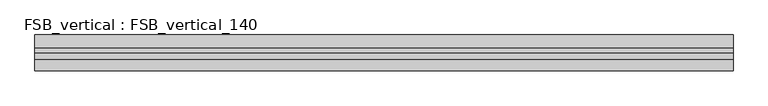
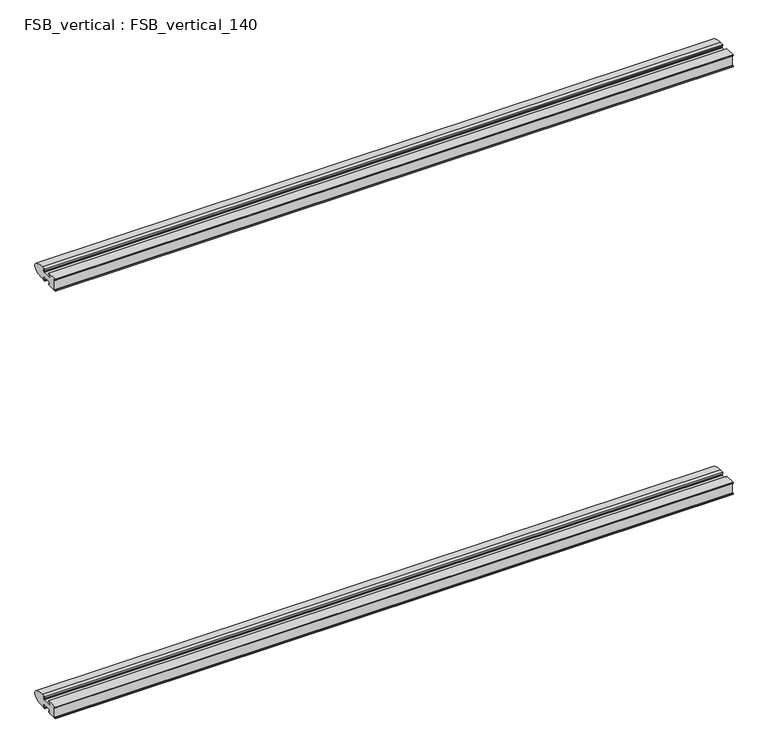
"""IFC4 building model written with IfcOpenShell, lengths in millimetres: proxy geometry, FSB_vertical : FSB_vertical_140."""

import ifcopenshell
import ifcopenshell.guid

model = None  # the IFC model being written
_history = None  # IfcOwnerHistory: only IFC2X3 demands one
_inside = {}  # id of a spatial element -> (the spatial element, [elements in it])
_under = {}  # id of a project, library or spatial element -> (it, [spatial elements below it])
_declared = {}  # id of a project -> (the project, [libraries it declares])
_typed = {}  # id of a type object -> (the type object, [elements of that type])
_made_of = {}  # id of a material, layer set ... -> (it, [elements and type objects made of it])


def new_model(schema):
    """Start an empty IFC model of exactly this schema.

    Asked for "IFC4X3", IfcOpenShell would pick the latest addendum, in which some entities
    have other attributes; the version numbers below select the first issue.
    IFC2X3 requires an IfcOwnerHistory on every rooted entity: one is made here for all.
    """
    global model, _history
    if schema == "IFC4X3":
        model = ifcopenshell.file(schema_version=(4, 3, 0, 0))
    else:
        model = ifcopenshell.file(schema=schema)
    _inside.clear()
    _under.clear()
    _declared.clear()
    _typed.clear()
    _made_of.clear()
    _history = None
    if model.schema == "IFC2X3":
        org = make("IfcOrganization", Name="unknown")
        user = make(
            "IfcPersonAndOrganization",
            ThePerson=make("IfcPerson", FamilyName="unknown"),
            TheOrganization=org,
        )
        app = make(
            "IfcApplication",
            ApplicationDeveloper=org,
            Version="unknown",
            ApplicationFullName="unknown",
            ApplicationIdentifier="unknown",
        )
        _history = make(
            "IfcOwnerHistory",
            OwningUser=user,
            OwningApplication=app,
            ChangeAction="ADDED",
            CreationDate=0,
        )
    return model


def make(cls, **values):
    """One entity of the class cls with the attributes given. An attribute that is None is left unset."""
    return model.create_entity(
        cls, **{name: value for name, value in values.items() if value is not None}
    )


def rooted(cls, **values):
    """An entity with a GlobalId (a new one), such as an element, a storey or a relation."""
    return make(cls, GlobalId=ifcopenshell.guid.new(), OwnerHistory=_history, **values)


def si_unit(unit_type, name, prefix=None):
    """IfcSIUnit, for example si_unit("LENGTHUNIT", "METRE", prefix="MILLI")."""
    return make("IfcSIUnit", UnitType=unit_type, Prefix=prefix, Name=name)


def assignment(units):
    """IfcUnitAssignment: the units of a project."""
    return None if units is None else make("IfcUnitAssignment", Units=units)


def point(xyz):
    """IfcCartesianPoint."""
    return None if xyz is None else make("IfcCartesianPoint", Coordinates=xyz)


def direction(xyz):
    """IfcDirection."""
    return None if xyz is None else make("IfcDirection", DirectionRatios=xyz)


def frame(location, z_axis=None, x_axis=None):
    """IfcAxis2Placement3D, a coordinate frame: its origin and axes. An axis left out is left unset."""
    return make(
        "IfcAxis2Placement3D",
        Location=point(location),
        Axis=direction(z_axis),
        RefDirection=direction(x_axis),
    )


def origin():
    """The frame at (0, 0, 0) with its axes left unset."""
    return frame((0.0, 0.0, 0.0))


def place(relative_to, where):
    """IfcLocalPlacement: puts the frame where relative to a parent placement (None: the world)."""
    return make(
        "IfcLocalPlacement", PlacementRelTo=relative_to, RelativePlacement=where
    )


def context(
    kind, dimensions, precision=None, world=None, true_north=None, identifier=None
):
    """IfcGeometricRepresentationContext, for example the 3D "Model" context."""
    return make(
        "IfcGeometricRepresentationContext",
        ContextIdentifier=identifier,
        ContextType=kind,
        CoordinateSpaceDimension=dimensions,
        Precision=precision,
        WorldCoordinateSystem=world,
        TrueNorth=true_north,
    )


def project(units=None, contexts=None):
    """IfcProject with its units and contexts."""
    return rooted(
        "IfcProject",
        Name="project",
        RepresentationContexts=contexts,
        UnitsInContext=assignment(units),
    )


def spatial(cls, under=None, at=None, **own):
    """A site, building, storey or space (cls), placed at a placement, below another one or the project."""
    s = rooted(cls, ObjectPlacement=at, **own)
    if under is not None:
        _under.setdefault(under.id(), (under, []))[1].append(s)
    return s


def circle_curve(where, radius):
    """IfcCircle in the frame where."""
    return make("IfcCircle", Position=where, Radius=radius)


def ellipse_curve(where, semi_axis1, semi_axis2):
    """IfcEllipse in the frame where."""
    return make(
        "IfcEllipse", Position=where, SemiAxis1=semi_axis1, SemiAxis2=semi_axis2
    )


def trimmed(basis, trim1, trim2, sense, master):
    """IfcTrimmedCurve: the piece of a basis curve between two trims."""
    return make(
        "IfcTrimmedCurve",
        BasisCurve=basis,
        Trim1=trim1,
        Trim2=trim2,
        SenseAgreement=sense,
        MasterRepresentation=master,
    )


def shape(context_of_items, identifier, shape_type, items):
    """IfcShapeRepresentation: the items that make up one representation, for example the "Body"."""
    return make(
        "IfcShapeRepresentation",
        ContextOfItems=context_of_items,
        RepresentationIdentifier=identifier,
        RepresentationType=shape_type,
        Items=items,
    )


def source(mapping_origin, context_of_items, identifier, shape_type, items):
    """IfcRepresentationMap: a shape defined once, which mapped items show again and again."""
    return make(
        "IfcRepresentationMap",
        MappingOrigin=mapping_origin,
        MappedRepresentation=shape(context_of_items, identifier, shape_type, items),
    )


def transform(
    local_origin,
    x_axis=None,
    y_axis=None,
    z_axis=None,
    scale=None,
    scale2=None,
    scale3=None,
    uniform=True,
):
    """IfcCartesianTransformationOperator3D, or its non-uniform kind. x_axis, y_axis, z_axis: its Axis1, 2, 3."""
    if uniform:
        return make(
            "IfcCartesianTransformationOperator3D",
            Axis1=direction(x_axis),
            Axis2=direction(y_axis),
            LocalOrigin=point(local_origin),
            Scale=scale,
            Axis3=direction(z_axis),
        )
    return make(
        "IfcCartesianTransformationOperator3DnonUniform",
        Axis1=direction(x_axis),
        Axis2=direction(y_axis),
        LocalOrigin=point(local_origin),
        Scale=scale,
        Axis3=direction(z_axis),
        Scale2=scale2,
        Scale3=scale3,
    )


def mapped(mapping_source, mapping_target):
    """IfcMappedItem: shows the shape of a source again, moved by a transform."""
    return make(
        "IfcMappedItem", MappingSource=mapping_source, MappingTarget=mapping_target
    )


def made_of(thing, what):
    """Note that an element or type object is made of a material, layer set ...; save() writes the relation."""
    if what is not None:
        _made_of.setdefault(what.id(), (what, []))[1].append(thing)
    return thing


def element(
    cls,
    number,
    at=None,
    inside=None,
    cuts=None,
    type_object=None,
    material=None,
    context=None,
    identifier="Body",
    shape_type=None,
    held_by="IfcProductDefinitionShape",
    body=None,
    shapes=None,
    **own,
):
    """One element of the class cls, such as IfcWall. Its Tag is "e" and its number.

    at: its placement. inside: the storey or other place that contains it. cuts: it is an
    opening in that element (IfcRelVoidsElement). A single representation is given by context,
    identifier, shape_type and body (its items); several are given by shapes. held_by: the class
    of the entity that holds the representations. save() writes the other relations.
    """
    e = rooted(cls, Tag="e%d" % number, ObjectPlacement=at, **own)
    if body is not None:
        shapes = [shape(context, identifier, shape_type, body)]
    if shapes is not None:
        e.Representation = make(held_by, Representations=shapes)
    if inside is not None:
        _inside.setdefault(inside.id(), (inside, []))[1].append(e)
    if cuts is not None:
        rooted(
            "IfcRelVoidsElement", RelatingBuildingElement=cuts, RelatedOpeningElement=e
        )
    if type_object is not None:
        _typed.setdefault(type_object.id(), (type_object, []))[1].append(e)
    return made_of(e, material)


def aggregate(whole, parts):
    """IfcRelAggregates: a whole, such as a stair, and the parts it consists of."""
    return rooted("IfcRelAggregates", RelatingObject=whole, RelatedObjects=parts)


def save(model, path):
    """Write the relations noted so far, then the file.

    IfcRelAggregates (storeys below a building ...), IfcRelContainedInSpatialStructure (elements
    in a storey), IfcRelDefinesByType, IfcRelAssociatesMaterial and IfcRelDeclares: one each for
    every whole, place, type object, material and project.
    """
    for whole, parts in _under.values():
        aggregate(whole, parts)
    for where, things in _inside.values():
        rooted(
            "IfcRelContainedInSpatialStructure",
            RelatedElements=things,
            RelatingStructure=where,
        )
    for kind, things in _typed.values():
        rooted("IfcRelDefinesByType", RelatedObjects=things, RelatingType=kind)
    for what, things in _made_of.values():
        rooted("IfcRelAssociatesMaterial", RelatedObjects=things, RelatingMaterial=what)
    for by, libraries in _declared.values():
        rooted("IfcRelDeclares", RelatingContext=by, RelatedDefinitions=libraries)
    model.write(path)


def plane_surface(at):
    """IfcPlane: the flat surface through the origin of the frame at, square to its z axis."""
    return make("IfcPlane", Position=at)


def cylinder_surface(at, radius):
    """IfcCylindricalSurface: all points at the distance radius from the z axis of the frame at."""
    return make("IfcCylindricalSurface", Position=at, Radius=radius)


def extruded_surface(curve, direction_of_extrusion, depth):
    """IfcSurfaceOfLinearExtrusion: the curve pushed along a direction by depth."""
    return make(
        "IfcSurfaceOfLinearExtrusion",
        SweptCurve=make("IfcArbitraryOpenProfileDef", ProfileType="CURVE", Curve=curve),
        ExtrudedDirection=direction(direction_of_extrusion),
        Depth=depth,
    )


def advanced_brep(points, edges, surfaces, faces):
    """IfcAdvancedBrep: a solid bounded by faces that lie on surfaces and meet in shared edges.

    An edge is (start, end): straight between two places in points (the first is 0);
    or (start, end, curve); or (start, end, curve, False) where it runs against its curve.
    A face is (place in surfaces, loops), or (place, loops, False) where it looks against
    its surface's normal. A loop lists edges by number (the first is 1), with a minus sign
    where the edge is run from its end to its start. The first loop is the outer one.
    """
    corners = [point(p) for p in points]
    vertices = [make("IfcVertexPoint", VertexGeometry=c) for c in corners]
    made = []
    for start, end, *more in edges:
        made.append(
            make(
                "IfcEdgeCurve",
                EdgeStart=vertices[start],
                EdgeEnd=vertices[end],
                EdgeGeometry=more[0] if more else make("IfcPolyline", Points=[corners[start], corners[end]]),
                SameSense=more[1] if len(more) > 1 else True,
            )
        )
    hull = []
    for where, loops, *sense in faces:
        bounds = []
        for j, loop in enumerate(loops):
            ring = [make("IfcOrientedEdge", EdgeElement=made[abs(k) - 1], Orientation=k > 0) for k in loop]
            bounds.append(
                make(
                    "IfcFaceOuterBound" if j == 0 else "IfcFaceBound",
                    Bound=make("IfcEdgeLoop", EdgeList=ring),
                    Orientation=True,
                )
            )
        hull.append(make("IfcAdvancedFace", Bounds=bounds, FaceSurface=surfaces[where], SameSense=sense[0] if sense else True))
    return make("IfcAdvancedBrep", Outer=make("IfcClosedShell", CfsFaces=hull))


def fsb_vertical_fsb_vertical_140_c8c1adf7(model_context):
    return source(origin(), model_context, "Body", "AdvancedBrep", [
        advanced_brep(
        [(-1500.0, 35.515, 27.4994269), (-1500.0, 35.515, -27.5000975), (-1500.0, 14.55, -27.5000975), (-1500.0, 14.55, -22.4), (-1500.0, 16.55, -22.4), (-1500.0, 16.55, -24.5000975), (-1500.0, 17.55, -25.5000975), (-1500.0, 22.175, -25.5000975), (-1500.0, 22.175, -14.05), (-1500.0, 18.5225, -14.05), (-1500.0, 18.5225, -11.0), (-1500.0, -18.5225, -11.0), (-1500.0, -18.5225, -14.05), (-1500.0, -22.175, -14.05), (-1500.0, -22.175, -25.3000975), (-1500.0, -17.55, -25.3000975), (-1500.0, -16.55, -24.3000975), (-1500.0, -16.55, -22.4), (-1500.0, -14.55, -22.4), (-1500.0, -14.55, -27.5000975), (-1500.0, -63.0727525, -27.5000975), (-1500.0, -63.0727525, -24.0000975), (-1500.0, -62.0727525, -23.0000975), (-1500.0, -60.5727525, -23.0000975), (-1500.0, -60.5727525, -25.0000975), (-1500.0, -57.5727525, -25.0000975), (-1500.0, -57.5727525, 25.0000975), (-1500.0, -60.5727525, 25.0000975), (-1500.0, -60.5727525, 23.0000975), (-1500.0, -62.0727525, 23.0000975), (-1500.0, -63.0727525, 24.0000975), (-1500.0, -63.0727525, 27.5000975), (-1500.0, -14.55, 27.5000975), (-1500.0, -14.55, 22.4), (-1500.0, -16.55, 22.4), (-1500.0, -16.55, 24.3000975), (-1500.0, -17.55, 25.3000975), (-1500.0, -22.175, 25.3000975), (-1500.0, -22.175, 14.05), (-1500.0, -18.5225, 14.05), (-1500.0, -18.5225, 11.0), (-1500.0, 18.5225, 11.0), (-1500.0, 18.5225, 14.05), (-1500.0, 22.175, 14.05), (-1500.0, 22.175, 25.5000975), (-1500.0, 17.55, 25.5000975), (-1500.0, 16.55, 24.5000975), (-1500.0, 16.55, 22.4), (-1500.0, 14.55, 22.4), (-1500.0, 14.55, 27.4994269), (1500.0, 35.515, 27.4994269), (1500.0, 14.55, 27.4994269), (1500.0, 14.55, 22.4), (1500.0, 16.55, 22.4), (1500.0, 16.55, 24.5000975), (1500.0, 17.55, 25.5000975), (1500.0, 22.175, 25.5000975), (1500.0, 22.175, 14.05), (1500.0, 18.5225, 14.05), (1500.0, 18.5225, 11.0), (1500.0, -18.5225, 11.0), (1500.0, -18.5225, 14.05), (1500.0, -22.175, 14.05), (1500.0, -22.175, 25.3000975), (1500.0, -17.55, 25.3000975), (1500.0, -16.55, 24.3000975), (1500.0, -16.55, 22.4), (1500.0, -14.55, 22.4), (1500.0, -14.55, 27.5000975), (1500.0, -63.0727525, 27.5000975), (1500.0, -63.0727525, 24.0000975), (1500.0, -62.0727525, 23.0000975), (1500.0, -60.5727525, 23.0000975), (1500.0, -60.5727525, 25.0000975), (1500.0, -57.5727525, 25.0000975), (1500.0, -57.5727525, -25.0000975), (1500.0, -60.5727525, -25.0000975), (1500.0, -60.5727525, -23.0000975), (1500.0, -62.0727525, -23.0000975), (1500.0, -63.0727525, -24.0000975), (1500.0, -63.0727525, -27.5000975), (1500.0, -14.55, -27.5000975), (1500.0, -14.55, -22.4), (1500.0, -16.55, -22.4), (1500.0, -16.55, -24.3000975), (1500.0, -17.55, -25.3000975), (1500.0, -22.175, -25.3000975), (1500.0, -22.175, -14.05), (1500.0, -18.5225, -14.05), (1500.0, -18.5225, -11.0), (1500.0, 18.5225, -11.0), (1500.0, 18.5225, -14.05), (1500.0, 22.175, -14.05), (1500.0, 22.175, -25.5000975), (1500.0, 17.55, -25.5000975), (1500.0, 16.55, -24.5000975), (1500.0, 16.55, -22.4), (1500.0, 14.55, -22.4), (1500.0, 14.55, -27.5000975), (1500.0, 35.515, -27.5000975)],
        [
            (0, 1, ellipse_curve(frame((-1500.0, 35.515, -0.0003353), z_axis=(-1.0, 0.0, 0.0), x_axis=(0.0, 1.0, 0.0)), 56.4122475, 27.4997622)),
            (1, 2),
            (2, 3),
            (3, 4),
            (4, 5),
            (5, 6),
            (6, 7),
            (7, 8),
            (8, 9),
            (9, 10),
            (10, 11),
            (11, 12),
            (12, 13),
            (13, 14),
            (14, 15),
            (15, 16),
            (16, 17),
            (17, 18),
            (18, 19),
            (19, 20),
            (20, 21),
            (21, 22, circle_curve(frame((-1500.0, -62.0727525, -24.0000975), z_axis=(-1.0, 0.0, 0.0), x_axis=(0.0, 0.0, 1.0)), 1.0)),
            (22, 23),
            (23, 24),
            (24, 25),
            (25, 26),
            (26, 27),
            (27, 28),
            (28, 29),
            (29, 30, circle_curve(frame((-1500.0, -62.0727525, 24.0000975), z_axis=(-1.0, 0.0, 0.0), x_axis=(0.0, -1.0, 0.0)), 1.0)),
            (30, 31),
            (31, 32),
            (32, 33),
            (33, 34),
            (34, 35),
            (35, 36),
            (36, 37),
            (37, 38),
            (38, 39),
            (39, 40),
            (40, 41),
            (41, 42),
            (42, 43),
            (43, 44),
            (44, 45),
            (45, 46),
            (46, 47),
            (47, 48),
            (48, 49),
            (49, 0),
            (50, 51),
            (51, 52),
            (52, 53),
            (53, 54),
            (54, 55),
            (55, 56),
            (56, 57),
            (57, 58),
            (58, 59),
            (59, 60),
            (60, 61),
            (61, 62),
            (62, 63),
            (63, 64),
            (64, 65),
            (65, 66),
            (66, 67),
            (67, 68),
            (68, 69),
            (69, 70),
            (70, 71, circle_curve(frame((1500.0, -62.0727525, 24.0000975), z_axis=(1.0, 0.0, 0.0), x_axis=(0.0, -1.0, 0.0)), 1.0)),
            (71, 72),
            (72, 73),
            (73, 74),
            (74, 75),
            (75, 76),
            (76, 77),
            (77, 78),
            (78, 79, circle_curve(frame((1500.0, -62.0727525, -24.0000975), z_axis=(1.0, 0.0, 0.0), x_axis=(0.0, 0.0, 1.0)), 1.0)),
            (79, 80),
            (80, 81),
            (81, 82),
            (82, 83),
            (83, 84),
            (84, 85),
            (85, 86),
            (86, 87),
            (87, 88),
            (88, 89),
            (89, 90),
            (90, 91),
            (91, 92),
            (92, 93),
            (93, 94),
            (94, 95),
            (95, 96),
            (96, 97),
            (97, 98),
            (98, 99),
            (99, 50, ellipse_curve(frame((1500.0, 35.515, -0.0003353), z_axis=(1.0, 0.0, 0.0), x_axis=(0.0, 1.0, 0.0)), 56.4122475, 27.4997622)),
            (0, 50),
            (99, 1),
            (98, 2),
            (97, 3),
            (96, 4),
            (95, 5),
            (94, 6),
            (93, 7),
            (92, 8),
            (91, 9),
            (90, 10),
            (89, 11),
            (88, 12),
            (87, 13),
            (86, 14),
            (85, 15),
            (84, 16),
            (83, 17),
            (82, 18),
            (81, 19),
            (80, 20),
            (79, 21),
            (78, 22),
            (77, 23),
            (76, 24),
            (75, 25),
            (74, 26),
            (73, 27),
            (72, 28),
            (71, 29),
            (70, 30),
            (69, 31),
            (68, 32),
            (67, 33),
            (66, 34),
            (65, 35),
            (64, 36),
            (63, 37),
            (62, 38),
            (61, 39),
            (60, 40),
            (59, 41),
            (58, 42),
            (57, 43),
            (56, 44),
            (55, 45),
            (54, 46),
            (53, 47),
            (52, 48),
            (51, 49),
        ],
        [
            plane_surface(frame((-1500.0, 0.0, 0.0), z_axis=(-1.0, 0.0, 0.0), x_axis=(0.0, -1.0, 0.0))),
            plane_surface(frame((1500.0, 0.0, 0.0), z_axis=(1.0, 0.0, 0.0), x_axis=(0.0, -1.0, 0.0))),
            extruded_surface(trimmed(ellipse_curve(frame((1500.0, 35.515, -0.0003353), z_axis=(-1.0, 0.0, 0.0), x_axis=(0.0, 1.0, 0.0)), 56.4122475, 27.4997622), [point((1500.0, 35.515, 27.4994269))], [point((1500.0, 35.515, -27.5000975))], True, "CARTESIAN"), (-3000.0, 0.0, 0.0), 3000.0),
            plane_surface(frame((-1500.0, 35.515, -27.5000975), z_axis=(0.0, 0.0, -1.0), x_axis=(1.0, 0.0, 0.0))),
            plane_surface(frame((-1500.0, 14.55, -27.5000975), z_axis=(0.0, -1.0, 0.0), x_axis=(1.0, 0.0, 0.0))),
            plane_surface(frame((-1500.0, 14.55, -22.4), z_axis=(0.0, 0.0, 1.0), x_axis=(1.0, 0.0, 0.0))),
            plane_surface(frame((-1500.0, 16.55, -22.4), z_axis=(0.0, 1.0, 0.0), x_axis=(1.0, 0.0, 0.0))),
            plane_surface(frame((-1500.0, 16.55, -24.5000975), z_axis=(0.0, 0.707106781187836, 0.707106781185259), x_axis=(1.0, 0.0, 0.0))),
            plane_surface(frame((-1500.0, 17.55, -25.5000975), z_axis=(0.0, 0.0, 1.0), x_axis=(1.0, 0.0, 0.0))),
            plane_surface(frame((-1500.0, 22.175, -25.5000975), z_axis=(0.0, -1.0, 0.0), x_axis=(1.0, 0.0, 0.0))),
            plane_surface(frame((-1500.0, 22.175, -14.05), z_axis=(0.0, 0.0, -1.0), x_axis=(1.0, 0.0, 0.0))),
            plane_surface(frame((-1500.0, 18.5225, -14.05), z_axis=(0.0, -1.0, 0.0), x_axis=(1.0, 0.0, 0.0))),
            plane_surface(frame((-1500.0, 18.5225, -11.0), z_axis=(0.0, 0.0, -1.0), x_axis=(1.0, 0.0, 0.0))),
            plane_surface(frame((-1500.0, -18.5225, -11.0), z_axis=(0.0, 1.0, 0.0), x_axis=(1.0, 0.0, 0.0))),
            plane_surface(frame((-1500.0, -18.5225, -14.05), z_axis=(0.0, 0.0, -1.0), x_axis=(1.0, 0.0, 0.0))),
            plane_surface(frame((-1500.0, -22.175, -14.05), z_axis=(0.0, 1.0, 0.0), x_axis=(1.0, 0.0, 0.0))),
            plane_surface(frame((-1500.0, -22.175, -25.3000975), z_axis=(0.0, 0.0, 1.0), x_axis=(1.0, 0.0, 0.0))),
            plane_surface(frame((-1500.0, -17.55, -25.3000975), z_axis=(0.0, -0.7071067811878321, 0.7071067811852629), x_axis=(1.0, 0.0, 0.0))),
            plane_surface(frame((-1500.0, -16.55, -24.3000975), z_axis=(0.0, -1.0, 0.0), x_axis=(1.0, 0.0, 0.0))),
            plane_surface(frame((-1500.0, -16.55, -22.4), z_axis=(0.0, 0.0, 1.0), x_axis=(1.0, 0.0, 0.0))),
            plane_surface(frame((-1500.0, -14.55, -22.4), z_axis=(0.0, 1.0, 0.0), x_axis=(1.0, 0.0, 0.0))),
            plane_surface(frame((-1500.0, -14.55, -27.5000975), z_axis=(0.0, 0.0, -1.0), x_axis=(1.0, 0.0, 0.0))),
            plane_surface(frame((-1500.0, -63.0727525, -27.5000975), z_axis=(0.0, -1.0, 0.0), x_axis=(1.0, 0.0, 0.0))),
            cylinder_surface(frame((-1500.0, -62.0727525, -24.0000975), z_axis=(-1.0, 0.0, 0.0), x_axis=(0.0, 0.0, 1.0)), 1.0),
            plane_surface(frame((-1500.0, -62.0727525, -23.0000975), z_axis=(0.0, 0.0, 1.0), x_axis=(1.0, 0.0, 0.0))),
            plane_surface(frame((-1500.0, -60.5727525, -23.0000975), z_axis=(0.0, 1.0, 0.0), x_axis=(1.0, 0.0, 0.0))),
            plane_surface(frame((-1500.0, -60.5727525, -25.0000975), z_axis=(0.0, 0.0, 1.0), x_axis=(1.0, 0.0, 0.0))),
            plane_surface(frame((-1500.0, -57.5727525, -25.0000975), z_axis=(0.0, -1.0, 0.0), x_axis=(1.0, 0.0, 0.0))),
            plane_surface(frame((-1500.0, -57.5727525, 25.0000975), z_axis=(0.0, 0.0, -1.0), x_axis=(1.0, 0.0, 0.0))),
            plane_surface(frame((-1500.0, -60.5727525, 25.0000975), z_axis=(0.0, 1.0, 0.0), x_axis=(1.0, 0.0, 0.0))),
            plane_surface(frame((-1500.0, -60.5727525, 23.0000975), z_axis=(0.0, 0.0, -1.0), x_axis=(1.0, 0.0, 0.0))),
            cylinder_surface(frame((-1500.0, -62.0727525, 24.0000975), z_axis=(-1.0, 0.0, 0.0), x_axis=(0.0, -1.0, 0.0)), 1.0),
            plane_surface(frame((-1500.0, -63.0727525, 24.0000975), z_axis=(0.0, -1.0, 0.0), x_axis=(1.0, 0.0, 0.0))),
            plane_surface(frame((-1500.0, -63.0727525, 27.5000975), z_axis=(0.0, 0.0, 1.0), x_axis=(1.0, 0.0, 0.0))),
            plane_surface(frame((-1500.0, -14.55, 27.5000975), z_axis=(0.0, 1.0, 0.0), x_axis=(1.0, 0.0, 0.0))),
            plane_surface(frame((-1500.0, -14.55, 22.4), z_axis=(0.0, 0.0, -1.0), x_axis=(1.0, 0.0, 0.0))),
            plane_surface(frame((-1500.0, -16.55, 22.4), z_axis=(0.0, -1.0, 0.0), x_axis=(1.0, 0.0, 0.0))),
            plane_surface(frame((-1500.0, -16.55, 24.3000975), z_axis=(0.0, -0.7071067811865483, -0.7071067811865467), x_axis=(1.0, 0.0, 0.0))),
            plane_surface(frame((-1500.0, -17.55, 25.3000975), z_axis=(0.0, 0.0, -1.0), x_axis=(1.0, 0.0, 0.0))),
            plane_surface(frame((-1500.0, -22.175, 25.3000975), z_axis=(0.0, 1.0, 0.0), x_axis=(1.0, 0.0, 0.0))),
            plane_surface(frame((-1500.0, -22.175, 14.05), z_axis=(0.0, 0.0, 1.0), x_axis=(1.0, 0.0, 0.0))),
            plane_surface(frame((-1500.0, -18.5225, 14.05), z_axis=(0.0, 1.0, 0.0), x_axis=(1.0, 0.0, 0.0))),
            plane_surface(frame((-1500.0, -18.5225, 11.0), z_axis=(0.0, 0.0, 1.0), x_axis=(1.0, 0.0, 0.0))),
            plane_surface(frame((-1500.0, 18.5225, 11.0), z_axis=(0.0, -1.0, 0.0), x_axis=(1.0, 0.0, 0.0))),
            plane_surface(frame((-1500.0, 18.5225, 14.05), z_axis=(0.0, 0.0, 1.0), x_axis=(1.0, 0.0, 0.0))),
            plane_surface(frame((-1500.0, 22.175, 14.05), z_axis=(0.0, -1.0, 0.0), x_axis=(1.0, 0.0, 0.0))),
            plane_surface(frame((-1500.0, 22.175, 25.5000975), z_axis=(0.0, 0.0, -1.0), x_axis=(1.0, 0.0, 0.0))),
            plane_surface(frame((-1500.0, 17.55, 25.5000975), z_axis=(0.0, 0.7071067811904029, -0.7071067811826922), x_axis=(1.0, 0.0, 0.0))),
            plane_surface(frame((-1500.0, 16.55, 24.5000975), z_axis=(0.0, 1.0, 0.0), x_axis=(1.0, 0.0, 0.0))),
            plane_surface(frame((-1500.0, 16.55, 22.4), z_axis=(0.0, 0.0, -1.0), x_axis=(1.0, 0.0, 0.0))),
            plane_surface(frame((-1500.0, 14.55, 22.4), z_axis=(0.0, -1.0, 0.0), x_axis=(1.0, 0.0, 0.0))),
            plane_surface(frame((-1500.0, 14.55, 27.4994269), z_axis=(0.0, 0.0, 1.0), x_axis=(1.0, 0.0, 0.0))),
        ],
        [
            (0, [[1, 2, 3, 4, 5, 6, 7, 8, 9, 10, 11, 12, 13, 14, 15, 16, 17, 18, 19, 20, 21, 22, 23, 24, 25, 26, 27, 28, 29, 30, 31, 32, 33, 34, 35, 36, 37, 38, 39, 40, 41, 42, 43, 44, 45, 46, 47, 48, 49, 50]]),
            (1, [[51, 52, 53, 54, 55, 56, 57, 58, 59, 60, 61, 62, 63, 64, 65, 66, 67, 68, 69, 70, 71, 72, 73, 74, 75, 76, 77, 78, 79, 80, 81, 82, 83, 84, 85, 86, 87, 88, 89, 90, 91, 92, 93, 94, 95, 96, 97, 98, 99, 100]]),
            (2, [[-1, 101, -100, 102]]),
            (3, [[-2, -102, -99, 103]]),
            (4, [[-3, -103, -98, 104]]),
            (5, [[-4, -104, -97, 105]]),
            (6, [[-5, -105, -96, 106]]),
            (7, [[-6, -106, -95, 107]]),
            (8, [[-7, -107, -94, 108]]),
            (9, [[-8, -108, -93, 109]]),
            (10, [[-9, -109, -92, 110]]),
            (11, [[-10, -110, -91, 111]]),
            (12, [[-11, -111, -90, 112]]),
            (13, [[-12, -112, -89, 113]]),
            (14, [[-13, -113, -88, 114]]),
            (15, [[-14, -114, -87, 115]]),
            (16, [[-15, -115, -86, 116]]),
            (17, [[-16, -116, -85, 117]]),
            (18, [[-17, -117, -84, 118]]),
            (19, [[-18, -118, -83, 119]]),
            (20, [[-19, -119, -82, 120]]),
            (21, [[-20, -120, -81, 121]]),
            (22, [[-21, -121, -80, 122]]),
            (23, [[-22, -122, -79, 123]]),
            (24, [[-23, -123, -78, 124]]),
            (25, [[-24, -124, -77, 125]]),
            (26, [[-25, -125, -76, 126]]),
            (27, [[-26, -126, -75, 127]]),
            (28, [[-27, -127, -74, 128]]),
            (29, [[-28, -128, -73, 129]]),
            (30, [[-29, -129, -72, 130]]),
            (31, [[-30, -130, -71, 131]]),
            (32, [[-31, -131, -70, 132]]),
            (33, [[-32, -132, -69, 133]]),
            (34, [[-33, -133, -68, 134]]),
            (35, [[-34, -134, -67, 135]]),
            (36, [[-35, -135, -66, 136]]),
            (37, [[-36, -136, -65, 137]]),
            (38, [[-37, -137, -64, 138]]),
            (39, [[-38, -138, -63, 139]]),
            (40, [[-39, -139, -62, 140]]),
            (41, [[-40, -140, -61, 141]]),
            (42, [[-41, -141, -60, 142]]),
            (43, [[-42, -142, -59, 143]]),
            (44, [[-43, -143, -58, 144]]),
            (45, [[-44, -144, -57, 145]]),
            (46, [[-45, -145, -56, 146]]),
            (47, [[-46, -146, -55, 147]]),
            (48, [[-47, -147, -54, 148]]),
            (49, [[-48, -148, -53, 149]]),
            (50, [[-49, -149, -52, 150]]),
            (51, [[-50, -150, -51, -101]]),
        ],
    ),
        advanced_brep(
        [(-1500.0, 35.515, 2027.4994269), (-1500.0, 35.515, 1972.4999025), (-1500.0, 14.55, 1972.4999025), (-1500.0, 14.55, 1977.6), (-1500.0, 16.55, 1977.6), (-1500.0, 16.55, 1975.4999025), (-1500.0, 17.55, 1974.4999025), (-1500.0, 22.175, 1974.4999025), (-1500.0, 22.175, 1985.95), (-1500.0, 18.5225, 1985.95), (-1500.0, 18.5225, 1989.0), (-1500.0, -18.5225, 1989.0), (-1500.0, -18.5225, 1985.95), (-1500.0, -22.175, 1985.95), (-1500.0, -22.175, 1974.6999025), (-1500.0, -17.55, 1974.6999025), (-1500.0, -16.55, 1975.6999025), (-1500.0, -16.55, 1977.6), (-1500.0, -14.55, 1977.6), (-1500.0, -14.55, 1972.4999025), (-1500.0, -63.0727525, 1972.4999025), (-1500.0, -63.0727525, 1975.9999025), (-1500.0, -62.0727525, 1976.9999025), (-1500.0, -60.5727525, 1976.9999025), (-1500.0, -60.5727525, 1974.9999025), (-1500.0, -57.5727525, 1974.9999025), (-1500.0, -57.5727525, 2025.0000975), (-1500.0, -60.5727525, 2025.0000975), (-1500.0, -60.5727525, 2023.0000975), (-1500.0, -62.0727525, 2023.0000975), (-1500.0, -63.0727525, 2024.0000975), (-1500.0, -63.0727525, 2027.5000975), (-1500.0, -14.55, 2027.5000975), (-1500.0, -14.55, 2022.4), (-1500.0, -16.55, 2022.4), (-1500.0, -16.55, 2024.3000975), (-1500.0, -17.55, 2025.3000975), (-1500.0, -22.175, 2025.3000975), (-1500.0, -22.175, 2014.05), (-1500.0, -18.5225, 2014.05), (-1500.0, -18.5225, 2011.0), (-1500.0, 18.5225, 2011.0), (-1500.0, 18.5225, 2014.05), (-1500.0, 22.175, 2014.05), (-1500.0, 22.175, 2025.5000975), (-1500.0, 17.55, 2025.5000975), (-1500.0, 16.55, 2024.5000975), (-1500.0, 16.55, 2022.4), (-1500.0, 14.55, 2022.4), (-1500.0, 14.55, 2027.4994269), (1500.0, 35.515, 2027.4994269), (1500.0, 14.55, 2027.4994269), (1500.0, 14.55, 2022.4), (1500.0, 16.55, 2022.4), (1500.0, 16.55, 2024.5000975), (1500.0, 17.55, 2025.5000975), (1500.0, 22.175, 2025.5000975), (1500.0, 22.175, 2014.05), (1500.0, 18.5225, 2014.05), (1500.0, 18.5225, 2011.0), (1500.0, -18.5225, 2011.0), (1500.0, -18.5225, 2014.05), (1500.0, -22.175, 2014.05), (1500.0, -22.175, 2025.3000975), (1500.0, -17.55, 2025.3000975), (1500.0, -16.55, 2024.3000975), (1500.0, -16.55, 2022.4), (1500.0, -14.55, 2022.4), (1500.0, -14.55, 2027.5000975), (1500.0, -63.0727525, 2027.5000975), (1500.0, -63.0727525, 2024.0000975), (1500.0, -62.0727525, 2023.0000975), (1500.0, -60.5727525, 2023.0000975), (1500.0, -60.5727525, 2025.0000975), (1500.0, -57.5727525, 2025.0000975), (1500.0, -57.5727525, 1974.9999025), (1500.0, -60.5727525, 1974.9999025), (1500.0, -60.5727525, 1976.9999025), (1500.0, -62.0727525, 1976.9999025), (1500.0, -63.0727525, 1975.9999025), (1500.0, -63.0727525, 1972.4999025), (1500.0, -14.55, 1972.4999025), (1500.0, -14.55, 1977.6), (1500.0, -16.55, 1977.6), (1500.0, -16.55, 1975.6999025), (1500.0, -17.55, 1974.6999025), (1500.0, -22.175, 1974.6999025), (1500.0, -22.175, 1985.95), (1500.0, -18.5225, 1985.95), (1500.0, -18.5225, 1989.0), (1500.0, 18.5225, 1989.0), (1500.0, 18.5225, 1985.95), (1500.0, 22.175, 1985.95), (1500.0, 22.175, 1974.4999025), (1500.0, 17.55, 1974.4999025), (1500.0, 16.55, 1975.4999025), (1500.0, 16.55, 1977.6), (1500.0, 14.55, 1977.6), (1500.0, 14.55, 1972.4999025), (1500.0, 35.515, 1972.4999025)],
        [
            (0, 1, ellipse_curve(frame((-1500.0, 35.515, 1999.9996647), z_axis=(-1.0, 0.0, 0.0), x_axis=(0.0, 1.0, 0.0)), 56.4122475, 27.4997622)),
            (1, 2),
            (2, 3),
            (3, 4),
            (4, 5),
            (5, 6),
            (6, 7),
            (7, 8),
            (8, 9),
            (9, 10),
            (10, 11),
            (11, 12),
            (12, 13),
            (13, 14),
            (14, 15),
            (15, 16),
            (16, 17),
            (17, 18),
            (18, 19),
            (19, 20),
            (20, 21),
            (21, 22, circle_curve(frame((-1500.0, -62.0727525, 1975.9999025), z_axis=(-1.0, 0.0, 0.0), x_axis=(0.0, 0.0, 1.0)), 1.0)),
            (22, 23),
            (23, 24),
            (24, 25),
            (25, 26),
            (26, 27),
            (27, 28),
            (28, 29),
            (29, 30, circle_curve(frame((-1500.0, -62.0727525, 2024.0000975), z_axis=(-1.0, 0.0, 0.0), x_axis=(0.0, -1.0, 0.0)), 1.0)),
            (30, 31),
            (31, 32),
            (32, 33),
            (33, 34),
            (34, 35),
            (35, 36),
            (36, 37),
            (37, 38),
            (38, 39),
            (39, 40),
            (40, 41),
            (41, 42),
            (42, 43),
            (43, 44),
            (44, 45),
            (45, 46),
            (46, 47),
            (47, 48),
            (48, 49),
            (49, 0),
            (50, 51),
            (51, 52),
            (52, 53),
            (53, 54),
            (54, 55),
            (55, 56),
            (56, 57),
            (57, 58),
            (58, 59),
            (59, 60),
            (60, 61),
            (61, 62),
            (62, 63),
            (63, 64),
            (64, 65),
            (65, 66),
            (66, 67),
            (67, 68),
            (68, 69),
            (69, 70),
            (70, 71, circle_curve(frame((1500.0, -62.0727525, 2024.0000975), z_axis=(1.0, 0.0, 0.0), x_axis=(0.0, -1.0, 0.0)), 1.0)),
            (71, 72),
            (72, 73),
            (73, 74),
            (74, 75),
            (75, 76),
            (76, 77),
            (77, 78),
            (78, 79, circle_curve(frame((1500.0, -62.0727525, 1975.9999025), z_axis=(1.0, 0.0, 0.0), x_axis=(0.0, 0.0, 1.0)), 1.0)),
            (79, 80),
            (80, 81),
            (81, 82),
            (82, 83),
            (83, 84),
            (84, 85),
            (85, 86),
            (86, 87),
            (87, 88),
            (88, 89),
            (89, 90),
            (90, 91),
            (91, 92),
            (92, 93),
            (93, 94),
            (94, 95),
            (95, 96),
            (96, 97),
            (97, 98),
            (98, 99),
            (99, 50, ellipse_curve(frame((1500.0, 35.515, 1999.9996647), z_axis=(1.0, 0.0, 0.0), x_axis=(0.0, 1.0, 0.0)), 56.4122475, 27.4997622)),
            (0, 50),
            (99, 1),
            (98, 2),
            (97, 3),
            (96, 4),
            (95, 5),
            (94, 6),
            (93, 7),
            (92, 8),
            (91, 9),
            (90, 10),
            (89, 11),
            (88, 12),
            (87, 13),
            (86, 14),
            (85, 15),
            (84, 16),
            (83, 17),
            (82, 18),
            (81, 19),
            (80, 20),
            (79, 21),
            (78, 22),
            (77, 23),
            (76, 24),
            (75, 25),
            (74, 26),
            (73, 27),
            (72, 28),
            (71, 29),
            (70, 30),
            (69, 31),
            (68, 32),
            (67, 33),
            (66, 34),
            (65, 35),
            (64, 36),
            (63, 37),
            (62, 38),
            (61, 39),
            (60, 40),
            (59, 41),
            (58, 42),
            (57, 43),
            (56, 44),
            (55, 45),
            (54, 46),
            (53, 47),
            (52, 48),
            (51, 49),
        ],
        [
            plane_surface(frame((-1500.0, 0.0, 2000.0), z_axis=(-1.0, 0.0, 0.0), x_axis=(0.0, -1.0, 0.0))),
            plane_surface(frame((1500.0, 0.0, 2000.0), z_axis=(1.0, 0.0, 0.0), x_axis=(0.0, -1.0, 0.0))),
            extruded_surface(trimmed(ellipse_curve(frame((1500.0, 35.515, 1999.9996647), z_axis=(-1.0, 0.0, 0.0), x_axis=(0.0, 1.0, 0.0)), 56.4122475, 27.4997622), [point((1500.0, 35.515, 2027.4994269))], [point((1500.0, 35.515, 1972.4999025))], True, "CARTESIAN"), (-3000.0, 0.0, 0.0), 3000.0),
            plane_surface(frame((-1500.0, 35.515, 1972.4999025), z_axis=(0.0, 0.0, -1.0), x_axis=(1.0, 0.0, 0.0))),
            plane_surface(frame((-1500.0, 14.55, 1972.4999025), z_axis=(0.0, -1.0, 0.0), x_axis=(1.0, 0.0, 0.0))),
            plane_surface(frame((-1500.0, 14.55, 1977.6), z_axis=(0.0, 0.0, 1.0), x_axis=(1.0, 0.0, 0.0))),
            plane_surface(frame((-1500.0, 16.55, 1977.6), z_axis=(0.0, 1.0, 0.0), x_axis=(1.0, 0.0, 0.0))),
            plane_surface(frame((-1500.0, 16.55, 1975.4999025), z_axis=(0.0, 0.707106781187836, 0.707106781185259), x_axis=(1.0, 0.0, 0.0))),
            plane_surface(frame((-1500.0, 17.55, 1974.4999025), z_axis=(0.0, 0.0, 1.0), x_axis=(1.0, 0.0, 0.0))),
            plane_surface(frame((-1500.0, 22.175, 1974.4999025), z_axis=(0.0, -1.0, 0.0), x_axis=(1.0, 0.0, 0.0))),
            plane_surface(frame((-1500.0, 22.175, 1985.95), z_axis=(0.0, 0.0, -1.0), x_axis=(1.0, 0.0, 0.0))),
            plane_surface(frame((-1500.0, 18.5225, 1985.95), z_axis=(0.0, -1.0, 0.0), x_axis=(1.0, 0.0, 0.0))),
            plane_surface(frame((-1500.0, 18.5225, 1989.0), z_axis=(0.0, 0.0, -1.0), x_axis=(1.0, 0.0, 0.0))),
            plane_surface(frame((-1500.0, -18.5225, 1989.0), z_axis=(0.0, 1.0, 0.0), x_axis=(1.0, 0.0, 0.0))),
            plane_surface(frame((-1500.0, -18.5225, 1985.95), z_axis=(0.0, 0.0, -1.0), x_axis=(1.0, 0.0, 0.0))),
            plane_surface(frame((-1500.0, -22.175, 1985.95), z_axis=(0.0, 1.0, 0.0), x_axis=(1.0, 0.0, 0.0))),
            plane_surface(frame((-1500.0, -22.175, 1974.6999025), z_axis=(0.0, 0.0, 1.0), x_axis=(1.0, 0.0, 0.0))),
            plane_surface(frame((-1500.0, -17.55, 1974.6999025), z_axis=(0.0, -0.7071067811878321, 0.7071067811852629), x_axis=(1.0, 0.0, 0.0))),
            plane_surface(frame((-1500.0, -16.55, 1975.6999025), z_axis=(0.0, -1.0, 0.0), x_axis=(1.0, 0.0, 0.0))),
            plane_surface(frame((-1500.0, -16.55, 1977.6), z_axis=(0.0, 0.0, 1.0), x_axis=(1.0, 0.0, 0.0))),
            plane_surface(frame((-1500.0, -14.55, 1977.6), z_axis=(0.0, 1.0, 0.0), x_axis=(1.0, 0.0, 0.0))),
            plane_surface(frame((-1500.0, -14.55, 1972.4999025), z_axis=(0.0, 0.0, -1.0), x_axis=(1.0, 0.0, 0.0))),
            plane_surface(frame((-1500.0, -63.0727525, 1972.4999025), z_axis=(0.0, -1.0, 0.0), x_axis=(1.0, 0.0, 0.0))),
            cylinder_surface(frame((-1500.0, -62.0727525, 1975.9999025), z_axis=(-1.0, 0.0, 0.0), x_axis=(0.0, 0.0, 1.0)), 1.0),
            plane_surface(frame((-1500.0, -62.0727525, 1976.9999025), z_axis=(0.0, 0.0, 1.0), x_axis=(1.0, 0.0, 0.0))),
            plane_surface(frame((-1500.0, -60.5727525, 1976.9999025), z_axis=(0.0, 1.0, 0.0), x_axis=(1.0, 0.0, 0.0))),
            plane_surface(frame((-1500.0, -60.5727525, 1974.9999025), z_axis=(0.0, 0.0, 1.0), x_axis=(1.0, 0.0, 0.0))),
            plane_surface(frame((-1500.0, -57.5727525, 1974.9999025), z_axis=(0.0, -1.0, 0.0), x_axis=(1.0, 0.0, 0.0))),
            plane_surface(frame((-1500.0, -57.5727525, 2025.0000975), z_axis=(0.0, 0.0, -1.0), x_axis=(1.0, 0.0, 0.0))),
            plane_surface(frame((-1500.0, -60.5727525, 2025.0000975), z_axis=(0.0, 1.0, 0.0), x_axis=(1.0, 0.0, 0.0))),
            plane_surface(frame((-1500.0, -60.5727525, 2023.0000975), z_axis=(0.0, 0.0, -1.0), x_axis=(1.0, 0.0, 0.0))),
            cylinder_surface(frame((-1500.0, -62.0727525, 2024.0000975), z_axis=(-1.0, 0.0, 0.0), x_axis=(0.0, -1.0, 0.0)), 1.0),
            plane_surface(frame((-1500.0, -63.0727525, 2024.0000975), z_axis=(0.0, -1.0, 0.0), x_axis=(1.0, 0.0, 0.0))),
            plane_surface(frame((-1500.0, -63.0727525, 2027.5000975), z_axis=(0.0, 0.0, 1.0), x_axis=(1.0, 0.0, 0.0))),
            plane_surface(frame((-1500.0, -14.55, 2027.5000975), z_axis=(0.0, 1.0, 0.0), x_axis=(1.0, 0.0, 0.0))),
            plane_surface(frame((-1500.0, -14.55, 2022.4), z_axis=(0.0, 0.0, -1.0), x_axis=(1.0, 0.0, 0.0))),
            plane_surface(frame((-1500.0, -16.55, 2022.4), z_axis=(0.0, -1.0, 0.0), x_axis=(1.0, 0.0, 0.0))),
            plane_surface(frame((-1500.0, -16.55, 2024.3000975), z_axis=(0.0, -0.7071067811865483, -0.7071067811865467), x_axis=(1.0, 0.0, 0.0))),
            plane_surface(frame((-1500.0, -17.55, 2025.3000975), z_axis=(0.0, 0.0, -1.0), x_axis=(1.0, 0.0, 0.0))),
            plane_surface(frame((-1500.0, -22.175, 2025.3000975), z_axis=(0.0, 1.0, 0.0), x_axis=(1.0, 0.0, 0.0))),
            plane_surface(frame((-1500.0, -22.175, 2014.05), z_axis=(0.0, 0.0, 1.0), x_axis=(1.0, 0.0, 0.0))),
            plane_surface(frame((-1500.0, -18.5225, 2014.05), z_axis=(0.0, 1.0, 0.0), x_axis=(1.0, 0.0, 0.0))),
            plane_surface(frame((-1500.0, -18.5225, 2011.0), z_axis=(0.0, 0.0, 1.0), x_axis=(1.0, 0.0, 0.0))),
            plane_surface(frame((-1500.0, 18.5225, 2011.0), z_axis=(0.0, -1.0, 0.0), x_axis=(1.0, 0.0, 0.0))),
            plane_surface(frame((-1500.0, 18.5225, 2014.05), z_axis=(0.0, 0.0, 1.0), x_axis=(1.0, 0.0, 0.0))),
            plane_surface(frame((-1500.0, 22.175, 2014.05), z_axis=(0.0, -1.0, 0.0), x_axis=(1.0, 0.0, 0.0))),
            plane_surface(frame((-1500.0, 22.175, 2025.5000975), z_axis=(0.0, 0.0, -1.0), x_axis=(1.0, 0.0, 0.0))),
            plane_surface(frame((-1500.0, 17.55, 2025.5000975), z_axis=(0.0, 0.7071067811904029, -0.7071067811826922), x_axis=(1.0, 0.0, 0.0))),
            plane_surface(frame((-1500.0, 16.55, 2024.5000975), z_axis=(0.0, 1.0, 0.0), x_axis=(1.0, 0.0, 0.0))),
            plane_surface(frame((-1500.0, 16.55, 2022.4), z_axis=(0.0, 0.0, -1.0), x_axis=(1.0, 0.0, 0.0))),
            plane_surface(frame((-1500.0, 14.55, 2022.4), z_axis=(0.0, -1.0, 0.0), x_axis=(1.0, 0.0, 0.0))),
            plane_surface(frame((-1500.0, 14.55, 2027.4994269), z_axis=(0.0, 0.0, 1.0), x_axis=(1.0, 0.0, 0.0))),
        ],
        [
            (0, [[1, 2, 3, 4, 5, 6, 7, 8, 9, 10, 11, 12, 13, 14, 15, 16, 17, 18, 19, 20, 21, 22, 23, 24, 25, 26, 27, 28, 29, 30, 31, 32, 33, 34, 35, 36, 37, 38, 39, 40, 41, 42, 43, 44, 45, 46, 47, 48, 49, 50]]),
            (1, [[51, 52, 53, 54, 55, 56, 57, 58, 59, 60, 61, 62, 63, 64, 65, 66, 67, 68, 69, 70, 71, 72, 73, 74, 75, 76, 77, 78, 79, 80, 81, 82, 83, 84, 85, 86, 87, 88, 89, 90, 91, 92, 93, 94, 95, 96, 97, 98, 99, 100]]),
            (2, [[-1, 101, -100, 102]]),
            (3, [[-2, -102, -99, 103]]),
            (4, [[-3, -103, -98, 104]]),
            (5, [[-4, -104, -97, 105]]),
            (6, [[-5, -105, -96, 106]]),
            (7, [[-6, -106, -95, 107]]),
            (8, [[-7, -107, -94, 108]]),
            (9, [[-8, -108, -93, 109]]),
            (10, [[-9, -109, -92, 110]]),
            (11, [[-10, -110, -91, 111]]),
            (12, [[-11, -111, -90, 112]]),
            (13, [[-12, -112, -89, 113]]),
            (14, [[-13, -113, -88, 114]]),
            (15, [[-14, -114, -87, 115]]),
            (16, [[-15, -115, -86, 116]]),
            (17, [[-16, -116, -85, 117]]),
            (18, [[-17, -117, -84, 118]]),
            (19, [[-18, -118, -83, 119]]),
            (20, [[-19, -119, -82, 120]]),
            (21, [[-20, -120, -81, 121]]),
            (22, [[-21, -121, -80, 122]]),
            (23, [[-22, -122, -79, 123]]),
            (24, [[-23, -123, -78, 124]]),
            (25, [[-24, -124, -77, 125]]),
            (26, [[-25, -125, -76, 126]]),
            (27, [[-26, -126, -75, 127]]),
            (28, [[-27, -127, -74, 128]]),
            (29, [[-28, -128, -73, 129]]),
            (30, [[-29, -129, -72, 130]]),
            (31, [[-30, -130, -71, 131]]),
            (32, [[-31, -131, -70, 132]]),
            (33, [[-32, -132, -69, 133]]),
            (34, [[-33, -133, -68, 134]]),
            (35, [[-34, -134, -67, 135]]),
            (36, [[-35, -135, -66, 136]]),
            (37, [[-36, -136, -65, 137]]),
            (38, [[-37, -137, -64, 138]]),
            (39, [[-38, -138, -63, 139]]),
            (40, [[-39, -139, -62, 140]]),
            (41, [[-40, -140, -61, 141]]),
            (42, [[-41, -141, -60, 142]]),
            (43, [[-42, -142, -59, 143]]),
            (44, [[-43, -143, -58, 144]]),
            (45, [[-44, -144, -57, 145]]),
            (46, [[-45, -145, -56, 146]]),
            (47, [[-46, -146, -55, 147]]),
            (48, [[-47, -147, -54, 148]]),
            (49, [[-48, -148, -53, 149]]),
            (50, [[-49, -149, -52, 150]]),
            (51, [[-50, -150, -51, -101]]),
        ],
    ),
    ])


if __name__ == "__main__":
    model = new_model("IFC4")
    model_context = context("Model", 3, world=origin())
    ifc_project = project(units=[si_unit("LENGTHUNIT", "METRE", prefix="MILLI")], contexts=[model_context])
    site = spatial("IfcSite", under=ifc_project)
    building = spatial("IfcBuilding", under=site)
    placement = place(None, origin())
    fsb_vertical_fsb_vertical_140_shape = fsb_vertical_fsb_vertical_140_c8c1adf7(model_context)
    element("IfcBuildingElementProxy", 1, Name="FSB_vertical : FSB_vertical_140", ObjectType="FSB_vertical : FSB_vertical_140", at=placement, inside=building, context=model_context, shape_type="MappedRepresentation", body=[
        mapped(fsb_vertical_fsb_vertical_140_shape, transform((0.0, 0.0, 0.0), x_axis=(1.0, 0.0, 0.0), y_axis=(0.0, 1.0, 0.0), z_axis=(0.0, 0.0, 1.0))),
    ])
    save(model, "model.ifc")
